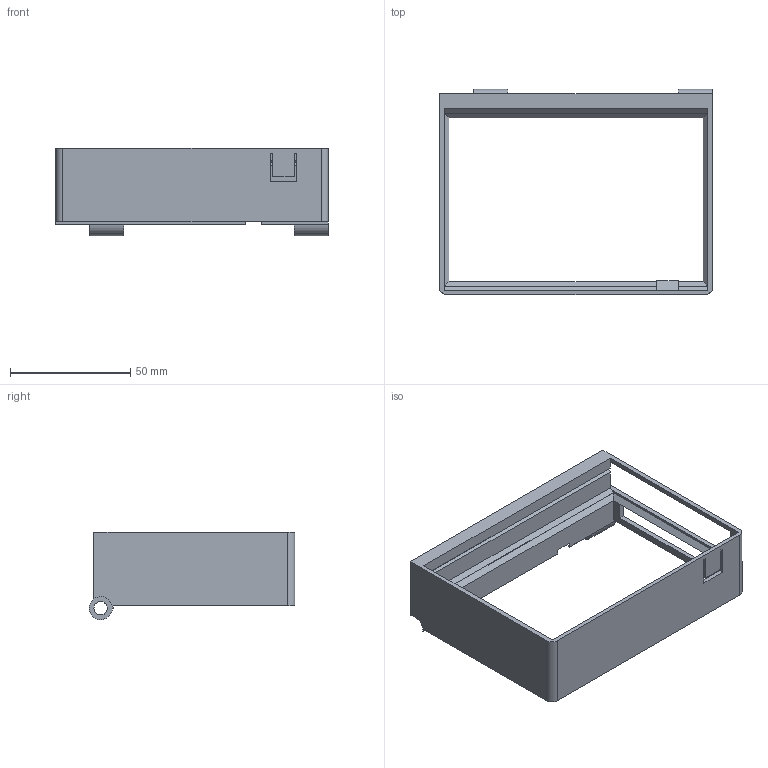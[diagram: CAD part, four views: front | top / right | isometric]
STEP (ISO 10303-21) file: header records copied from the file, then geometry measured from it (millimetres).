
FILE_DESCRIPTION(('STEP AP242 Edition 2','STEP AP242 Edition 2''CAx-IF Rec.Pracs.---Representation and Presentation of Product Manufacturing Information (PMI)---4.0---2014-10-13','STEP AP242 Edition 2''CAx-IF Rec.Pracs.---Representation and Presentation of Product Manufacturing Information (PMI)---4.0---2014-10-13''CAx-IF Rec.Pracs.---3D Tessellated Geometry---0.4---2014-09-14','STEP AP242 Edition 2''CAx-IF Rec.Pracs.---Representation and Presentation of Product Manufacturing Information (PMI)---4.0---2014-10-13''CAx-IF Rec.Pracs.---3D Tessellated Geometry---0.4---2014-09-14''2;1','STEP AP242 Edition 2''CAx-IF Rec.Pracs.---Representation and Presentation of Product Manufacturing Information (PMI)---4.0---2014-10-13''CAx-IF Rec.Pracs.---3D Tessellated Geometry---0.4---2014-09-14''2;1''CAx-IF Rec.Pracs.---User Defined Attributes---1.5---2016-08-15'),'2;1');
FILE_NAME('/vol/tmp/translate-371612670479758043/Case - Case Bottom Center.step','2026-03-18T15:31:29',(''),(''),'ST-DEVELOPER v20','ONSHAPE BY PTC INC, 1.212',' ');
FILE_SCHEMA(('AP242_MANAGED_MODEL_BASED_3D_ENGINEERING_MIM_LF { 1 0 10303 442 3 1 4 }'));
Length unit declared in the file: metre
Products named in the file (1): Case Bottom Center
Bounding box: 113.7 x 85.67 x 36.45 mm (x, y, z)
Volume: 38619.4 mm3; surface area: 26113.9 mm2
Topology: 1 solids, 1 shells, 67 faces, 194 edges, 126 vertices
Faces by surface type: plane 59, cylinder 8
Full cylindrical faces by diameter (mm): 5.6 x2
Entity records: 2202 total; most frequent: CARTESIAN_POINT 386, ORIENTED_EDGE 384, DIRECTION 346, EDGE_CURVE 192, LINE 174, VECTOR 174, VERTEX_POINT 126, AXIS2_PLACEMENT_3D 86
